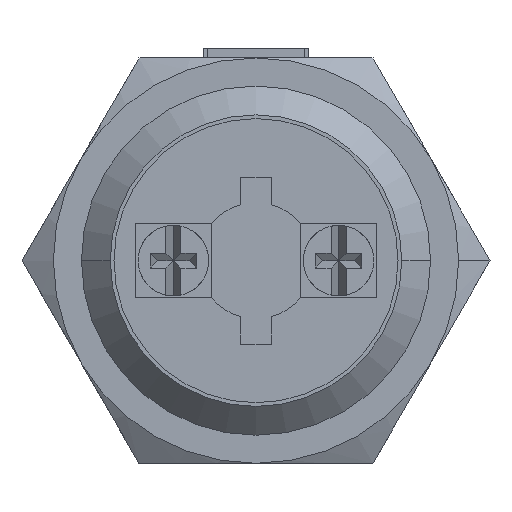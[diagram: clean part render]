
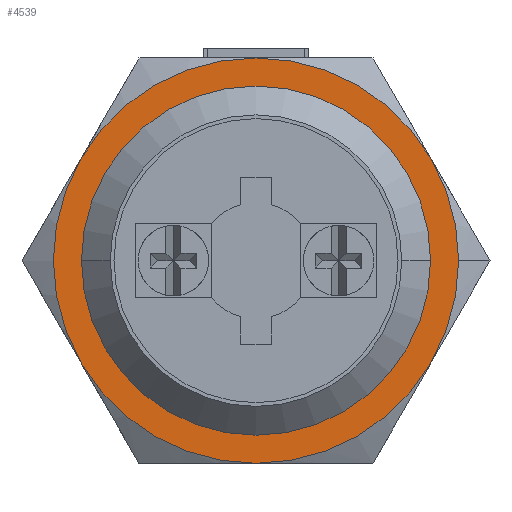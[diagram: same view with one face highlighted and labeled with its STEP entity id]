
A CAD part, front view. The second image highlights one B-rep face of the part: STEP entity #4539.
In plain terms, the highlighted planar face has unit normal (0, -1, 0).
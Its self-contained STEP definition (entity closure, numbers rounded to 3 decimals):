
#172 = PLANE ( 'NONE',  #1462 ) ;
#179 = CARTESIAN_POINT ( 'NONE',  ( -9.4, 8.55, 0. ) ) ;
#180 = DIRECTION ( 'NONE',  ( 0., -1., 0. ) ) ;
#181 = DIRECTION ( 'NONE',  ( 1., 0., 0. ) ) ;
#197 = CARTESIAN_POINT ( 'NONE',  ( 0., 8.55, 0. ) ) ;
#201 = DIRECTION ( 'NONE',  ( 0., 1., 0. ) ) ;
#202 = DIRECTION ( 'NONE',  ( -1., 0., 0. ) ) ;
#303 = CARTESIAN_POINT ( 'NONE',  ( 0., 8.55, 0. ) ) ;
#304 = DIRECTION ( 'NONE',  ( 0., -1., 0. ) ) ;
#305 = DIRECTION ( 'NONE',  ( 1., 0., 0. ) ) ;
#373 = CARTESIAN_POINT ( 'NONE',  ( 9.45, 8.55, -5.456 ) ) ;
#379 = CARTESIAN_POINT ( 'NONE',  ( 0., 8.55, 10.912 ) ) ;
#382 = CARTESIAN_POINT ( 'NONE',  ( -9.45, 8.55, 5.456 ) ) ;
#385 = CARTESIAN_POINT ( 'NONE',  ( -9.45, 8.55, -5.456 ) ) ;
#389 = CARTESIAN_POINT ( 'NONE',  ( 0., 8.55, -10.912 ) ) ;
#454 = CARTESIAN_POINT ( 'NONE',  ( 9.45, 8.55, 5.456 ) ) ;
#480 = CARTESIAN_POINT ( 'NONE',  ( 9.4, 8.55, 0. ) ) ;
#484 = CARTESIAN_POINT ( 'NONE',  ( -9.4, 8.55, 0. ) ) ;
#505 = CARTESIAN_POINT ( 'NONE',  ( 10.912, 8.55, 0. ) ) ;
#1441 = AXIS2_PLACEMENT_3D ( 'NONE', #303, #304, #305 ) ;
#1462 = AXIS2_PLACEMENT_3D ( 'NONE', #179, #180, #181 ) ;
#1464 = AXIS2_PLACEMENT_3D ( 'NONE', #197, #201, #202 ) ;
#1507 = FACE_OUTER_BOUND ( 'NONE', #4195, .T. ) ;
#1513 = FACE_BOUND ( 'NONE', #6083, .T. ) ;
#2272 = AXIS2_PLACEMENT_3D ( 'NONE', #2955, #2956, #2957 ) ;
#2277 = AXIS2_PLACEMENT_3D ( 'NONE', #2958, #2959, #2960 ) ;
#2279 = AXIS2_PLACEMENT_3D ( 'NONE', #2943, #2947, #2948 ) ;
#2282 = AXIS2_PLACEMENT_3D ( 'NONE', #2940, #2941, #2942 ) ;
#2284 = AXIS2_PLACEMENT_3D ( 'NONE', #2937, #2938, #2939 ) ;
#2287 = AXIS2_PLACEMENT_3D ( 'NONE', #2931, #2932, #2933 ) ;
#2289 = AXIS2_PLACEMENT_3D ( 'NONE', #2928, #2929, #2930 ) ;
#2550 = CIRCLE ( 'NONE', #1441, 10.912 ) ;
#2564 = CIRCLE ( 'NONE', #1464, 9.4 ) ;
#2622 = CIRCLE ( 'NONE', #2277, 10.912 ) ;
#2624 = CIRCLE ( 'NONE', #2272, 9.4 ) ;
#2625 = CIRCLE ( 'NONE', #2282, 10.912 ) ;
#2626 = CIRCLE ( 'NONE', #2279, 10.912 ) ;
#2627 = CIRCLE ( 'NONE', #2284, 10.912 ) ;
#2628 = CIRCLE ( 'NONE', #2287, 10.912 ) ;
#2630 = CIRCLE ( 'NONE', #2289, 10.912 ) ;
#2928 = CARTESIAN_POINT ( 'NONE',  ( 0., 8.55, 0. ) ) ;
#2929 = DIRECTION ( 'NONE',  ( 0., -1., 0. ) ) ;
#2930 = DIRECTION ( 'NONE',  ( 1., 0., 0. ) ) ;
#2931 = CARTESIAN_POINT ( 'NONE',  ( 0., 8.55, 0. ) ) ;
#2932 = DIRECTION ( 'NONE',  ( 0., -1., 0. ) ) ;
#2933 = DIRECTION ( 'NONE',  ( 1., 0., 0. ) ) ;
#2937 = CARTESIAN_POINT ( 'NONE',  ( 0., 8.55, 0. ) ) ;
#2938 = DIRECTION ( 'NONE',  ( 0., -1., 0. ) ) ;
#2939 = DIRECTION ( 'NONE',  ( 1., 0., 0. ) ) ;
#2940 = CARTESIAN_POINT ( 'NONE',  ( 0., 8.55, 0. ) ) ;
#2941 = DIRECTION ( 'NONE',  ( 0., -1., 0. ) ) ;
#2942 = DIRECTION ( 'NONE',  ( 1., 0., 0. ) ) ;
#2943 = CARTESIAN_POINT ( 'NONE',  ( 0., 8.55, 0. ) ) ;
#2947 = DIRECTION ( 'NONE',  ( 0., -1., 0. ) ) ;
#2948 = DIRECTION ( 'NONE',  ( 1., 0., 0. ) ) ;
#2955 = CARTESIAN_POINT ( 'NONE',  ( 0., 8.55, 0. ) ) ;
#2956 = DIRECTION ( 'NONE',  ( 0., 1., 0. ) ) ;
#2957 = DIRECTION ( 'NONE',  ( -1., 0., 0. ) ) ;
#2958 = CARTESIAN_POINT ( 'NONE',  ( 0., 8.55, 0. ) ) ;
#2959 = DIRECTION ( 'NONE',  ( 0., -1., 0. ) ) ;
#2960 = DIRECTION ( 'NONE',  ( 1., 0., 0. ) ) ;
#3838 = EDGE_CURVE ( 'NONE', #5186, #5318, #2630, .T. ) ;
#3841 = EDGE_CURVE ( 'NONE', #5202, #5186, #2628, .T. ) ;
#3845 = EDGE_CURVE ( 'NONE', #5267, #5192, #2627, .T. ) ;
#3848 = EDGE_CURVE ( 'NONE', #5192, #5195, #2625, .T. ) ;
#3852 = EDGE_CURVE ( 'NONE', #5195, #5198, #2626, .T. ) ;
#3859 = EDGE_CURVE ( 'NONE', #5293, #5297, #2624, .T. ) ;
#3861 = EDGE_CURVE ( 'NONE', #5198, #5202, #2622, .T. ) ;
#3951 = ORIENTED_EDGE ( 'NONE', *, *, #3841, .T. ) ;
#3953 = ORIENTED_EDGE ( 'NONE', *, *, #3861, .T. ) ;
#3955 = ORIENTED_EDGE ( 'NONE', *, *, #3852, .T. ) ;
#3957 = ORIENTED_EDGE ( 'NONE', *, *, #3845, .T. ) ;
#3958 = ORIENTED_EDGE ( 'NONE', *, *, #4572, .T. ) ;
#3960 = ORIENTED_EDGE ( 'NONE', *, *, #3838, .T. ) ;
#3962 = ORIENTED_EDGE ( 'NONE', *, *, #3859, .T. ) ;
#3964 = ORIENTED_EDGE ( 'NONE', *, *, #4546, .T. ) ;
#3965 = ORIENTED_EDGE ( 'NONE', *, *, #3848, .T. ) ;
#4195 = EDGE_LOOP ( 'NONE', ( #3960, #3958, #3957, #3965, #3955, #3953, #3951 ) ) ;
#4539 = ADVANCED_FACE ( 'NONE', ( #1513, #1507 ), #172, .T. ) ;
#4546 = EDGE_CURVE ( 'NONE', #5297, #5293, #2564, .T. ) ;
#4572 = EDGE_CURVE ( 'NONE', #5318, #5267, #2550, .T. ) ;
#5186 = VERTEX_POINT ( 'NONE', #373 ) ;
#5192 = VERTEX_POINT ( 'NONE', #379 ) ;
#5195 = VERTEX_POINT ( 'NONE', #382 ) ;
#5198 = VERTEX_POINT ( 'NONE', #385 ) ;
#5202 = VERTEX_POINT ( 'NONE', #389 ) ;
#5267 = VERTEX_POINT ( 'NONE', #454 ) ;
#5293 = VERTEX_POINT ( 'NONE', #480 ) ;
#5297 = VERTEX_POINT ( 'NONE', #484 ) ;
#5318 = VERTEX_POINT ( 'NONE', #505 ) ;
#6083 = EDGE_LOOP ( 'NONE', ( #3964, #3962 ) ) ;
